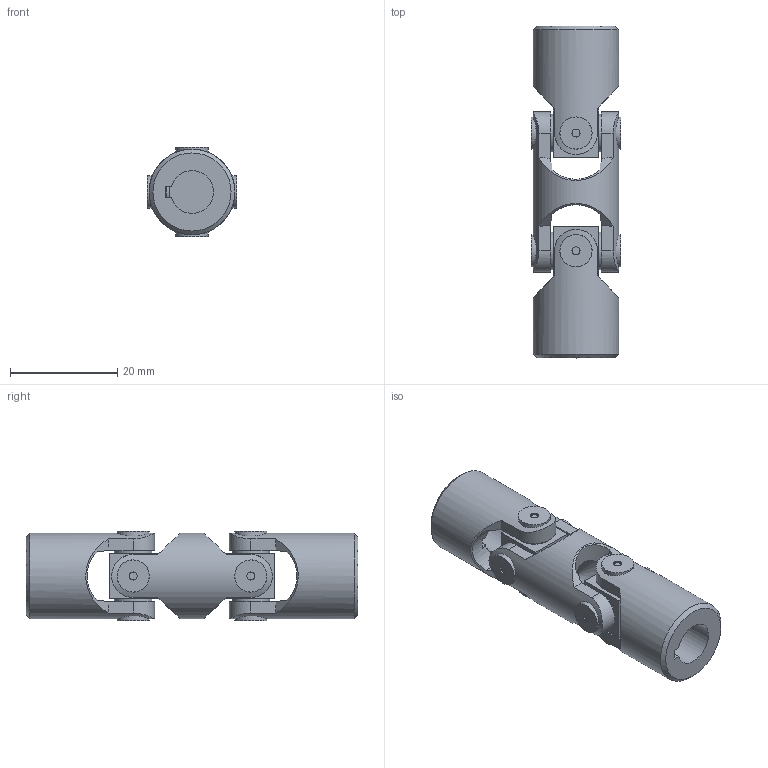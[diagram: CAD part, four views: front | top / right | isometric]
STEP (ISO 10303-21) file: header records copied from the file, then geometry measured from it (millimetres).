
FILE_DESCRIPTION(/* description */ (''),/* implementation_level */ '2;1');
FILE_NAME(/* name */ '\\SRV2016\Societa\Stefano\Disegni 3D\00Catalogo 3D\02Doppi GD-GBD\SG0D082C.stp',/* time_stamp */ '2021-11-22T16:54:20+01:00',/* author */ ('acquisti'),/* organization */ (''),/* preprocessor_version */ 'ST-DEVELOPER v15.6',/* originating_system */ 'Autodesk Inventor 2015',/* authorisation */ '');
FILE_SCHEMA (('AUTOMOTIVE_DESIGN { 1 0 10303 214 3 1 1 }'));
Length unit declared in the file: millimetre
Products named in the file (4): 01G MOD; 01-02G SFE; 02G MOC; Ø16_02GD-00_SG0D0800
Assembly tree (5 placements, depth 2):
  Ø16_02GD-00_SG0D0800
    01G MOD
    01-02G SFE  x2
    02G MOC  x2
Bounding box: 16.7 x 62 x 16.7 mm (x, y, z)
Volume: 8328.8 mm3; surface area: 6091.2 mm2
Topology: 5 solids, 5 shells, 143 faces, 361 edges, 248 vertices
Faces by surface type: plane 76, cylinder 41, cone 22, torus 4
Full cylindrical faces by diameter (mm): 1.5 x8, 6 x8, 7 x8, 8.5 x2, 16 x3
Entity records: 3338 total; most frequent: CARTESIAN_POINT 1172, ORIENTED_EDGE 416, DIRECTION 413, EDGE_CURVE 208, AXIS2_PLACEMENT_3D 178, VERTEX_POINT 156, EDGE_LOOP 140, FACE_OUTER_BOUND 97
